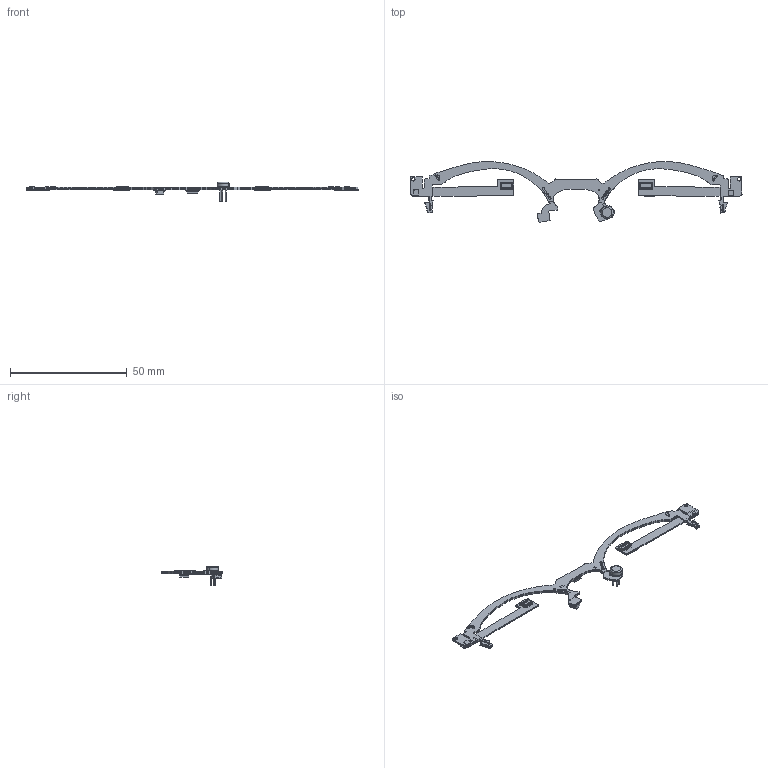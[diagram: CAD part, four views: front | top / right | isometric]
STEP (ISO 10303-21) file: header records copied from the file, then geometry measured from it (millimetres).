
FILE_DESCRIPTION(('Open CASCADE Model'),'2;1');
FILE_NAME('Open CASCADE Shape Model','2021-04-16T12:59:03',('Author'),( 'Open CASCADE'),'Open CASCADE STEP processor 6.8','Open CASCADE 6.8' ,'Unknown');
FILE_SCHEMA(('AUTOMOTIVE_DESIGN { 1 0 10303 214 1 1 1 1 }'));
Length unit declared in the file: millimetre
Products named in the file (51): PCB; Board; Open CASCADE STEP translator 6.8 1.1.1; Open CASCADE STEP translator 6.8 1.1.2; Open CASCADE STEP translator 6.8 1.1.3; C1; 0402_RESISTOR; C4; C2; C3; C6; C8; C7; C5; D2; IC_ON_Semi_QRE1113GR_eec; U2; to-46; IC2; 5966772112; Array; Body; IC1; R6; R5; R4; resistor0402; J1; 5966759392; LED4; APFA3010; LED2; LED3; LED1; J2; 5966767152; D1; VBPW34S--3DModel-STEP-56544; Free-Models; flex_v2_outline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
Assembly tree (63 placements, depth 4):
  PCB
    Board
      Open CASCADE STEP translator 6.8 1.1.1
      Open CASCADE STEP translator 6.8 1.1.2
      Open CASCADE STEP translator 6.8 1.1.3
    C1
      0402_RESISTOR
    C4
      0402_RESISTOR
    C2
      0402_RESISTOR
    C3
      0402_RESISTOR
    C6
      0402_RESISTOR
    C8
      0402_RESISTOR
    C7
      0402_RESISTOR
    C5
      0402_RESISTOR
    D2
      IC_ON_Semi_QRE1113GR_eec
      IC_ON_Semi_QRE1113GR_eec
      IC_ON_Semi_QRE1113GR_eec
      IC_ON_Semi_QRE1113GR_eec
      IC_ON_Semi_QRE1113GR_eec
    U2
      to-46
    IC2
      5966772112
        Array
        Body
    IC1
      5966772112
        Array
        Body
    R6
      0402_RESISTOR
    R5
      0402_RESISTOR
    R4
      resistor0402
    J1
      5966759392
    LED4
      APFA3010
    LED2
      APFA3010
    LED3
      APFA3010
    LED1
      APFA3010
    J2
      5966767152
    D1
      VBPW34S--3DModel-STEP-56544
    Free-Models
      flex_v2_outline
      7312581200
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Bounding box: 142.36 x 25.92 x 8.33 mm (x, y, z)
Volume: 977.6 mm3; surface area: 5879 mm2
Topology: 193 solids, 193 shells, 4341 faces, 12120 edges, 8005 vertices
Faces by surface type: plane 3769, cylinder 486, sphere 50, bspline 24, torus 12
Full cylindrical faces by diameter (mm): 0.282 x2, 0.7 x4, 1 x8
Entity records: 119763 total; most frequent: CARTESIAN_POINT 21973, ORIENTED_EDGE 19554, DIRECTION 17275, EDGE_CURVE 9777, LINE 8959, VECTOR 8959, VERTEX_POINT 6468, AXIS2_PLACEMENT_3D 4158
